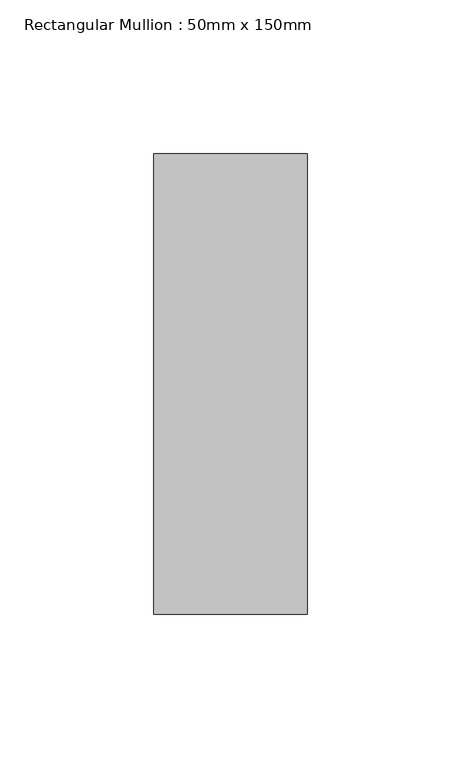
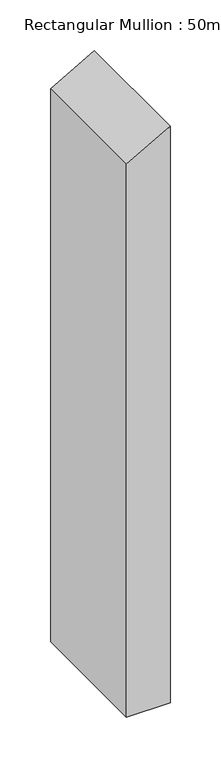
"""IFC4 building model written with IfcOpenShell, lengths in millimetres: member geometry, Rectangular Mullion : 50mm x 150mm."""

from ifc_helpers import new_model, si_unit, frame, origin, place, context, project, spatial, polyline, outline, extrude, source, transform, mapped, element, save


def rectangular_mullion_50mm_x_150mm_fee80ca3(model_context):
    return source(origin(), model_context, "Body", "SweptSolid", [
        extrude(outline(polyline([(0.0, 0.0), (-28.5863718, -50.0), (-695.9168295, -50.0), (-695.9168295, 0.0), (0.0, 0.0)])), frame((0.0, -75.0, 0.0), z_axis=(0.0, 1.0, 0.0), x_axis=(0.0, 0.0, 1.0)), (0.0, 0.0, 1.0), 150.0),
    ])


if __name__ == "__main__":
    model = new_model("IFC4")
    model_context = context("Model", 3, world=origin())
    ifc_project = project(units=[si_unit("LENGTHUNIT", "METRE", prefix="MILLI")], contexts=[model_context])
    site = spatial("IfcSite", under=ifc_project)
    building = spatial("IfcBuilding", under=site)
    placement = place(None, origin())
    rectangular_mullion_50mm_x_150mm_shape = rectangular_mullion_50mm_x_150mm_fee80ca3(model_context)
    element("IfcMember", 1, ObjectType="Rectangular Mullion : 50mm x 150mm", at=placement, inside=building, context=model_context, shape_type="MappedRepresentation", body=[
        mapped(rectangular_mullion_50mm_x_150mm_shape, transform((0.0, 0.0, 0.0), x_axis=(1.0, 0.0, 0.0), y_axis=(0.0, 1.0, 0.0), z_axis=(0.0, 0.0, 1.0))),
    ])
    save(model, "model.ifc")
